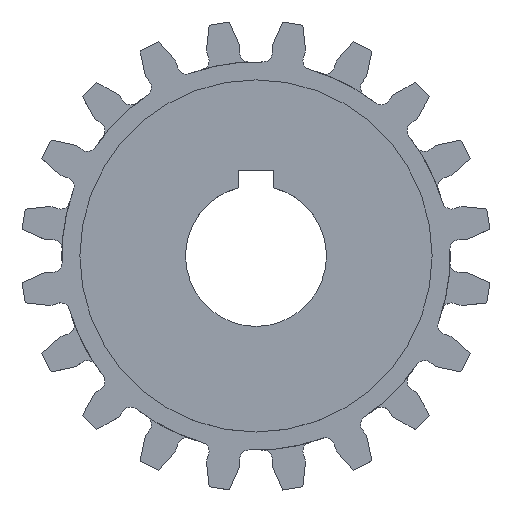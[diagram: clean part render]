
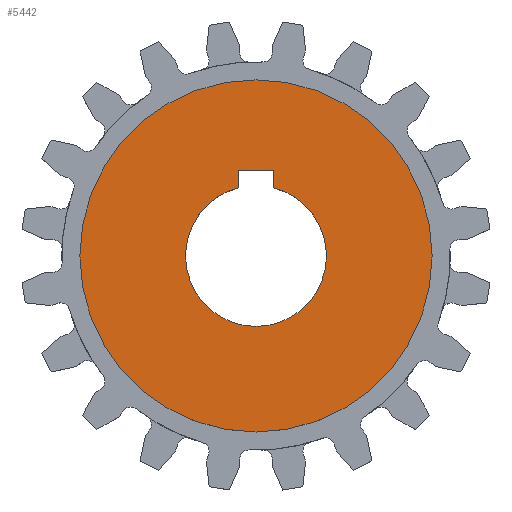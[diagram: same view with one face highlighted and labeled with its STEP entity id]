
A CAD part, top view. The second image highlights one B-rep face of the part: STEP entity #5442.
In plain terms, the highlighted planar face has unit normal (0, 0, 1).
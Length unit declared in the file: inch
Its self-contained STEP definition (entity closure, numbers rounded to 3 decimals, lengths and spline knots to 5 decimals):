
#1949=CARTESIAN_POINT('',(0.,0.,0.41));
#1950=DIRECTION('',(0.,0.,1.));
#1951=DIRECTION('',(1.,0.,0.));
#1952=AXIS2_PLACEMENT_3D('',#1949,#1950,#1951);
#1954=CARTESIAN_POINT('',(0.,0.,0.41));
#1955=DIRECTION('',(0.,0.,1.));
#1956=DIRECTION('',(-1.,0.,0.));
#1957=AXIS2_PLACEMENT_3D('',#1954,#1955,#1956);
#1959=DIRECTION('',(0.,-1.,0.));
#1960=VECTOR('',#1959,0.25);
#1961=CARTESIAN_POINT('',(-0.25,1.21825,0.41));
#1962=LINE('',#1961,#1960);
#1963=CARTESIAN_POINT('',(0.,0.,0.41));
#1964=DIRECTION('',(0.,0.,1.));
#1965=DIRECTION('',(-0.25,0.968,0.));
#1966=AXIS2_PLACEMENT_3D('',#1963,#1964,#1965);
#1968=DIRECTION('',(0.,1.,0.));
#1969=VECTOR('',#1968,0.25);
#1970=CARTESIAN_POINT('',(0.25,0.96825,0.41));
#1971=LINE('',#1970,#1969);
#1972=DIRECTION('',(-1.,0.,0.));
#1973=VECTOR('',#1972,0.5);
#1974=CARTESIAN_POINT('',(0.25,1.21825,0.41));
#1975=LINE('',#1974,#1973);
#2595=CARTESIAN_POINT('',(2.5,0.,0.41));
#2596=CARTESIAN_POINT('',(-2.5,0.,0.41));
#2597=VERTEX_POINT('',#2595);
#2598=VERTEX_POINT('',#2596);
#2847=CARTESIAN_POINT('',(-0.25,1.21825,0.41));
#2848=CARTESIAN_POINT('',(-0.25,0.96825,0.41));
#2849=VERTEX_POINT('',#2847);
#2850=VERTEX_POINT('',#2848);
#2851=CARTESIAN_POINT('',(0.25,0.96825,0.41));
#2852=VERTEX_POINT('',#2851);
#2853=CARTESIAN_POINT('',(0.25,1.21825,0.41));
#2854=VERTEX_POINT('',#2853);
#5423=CARTESIAN_POINT('',(0.,0.,0.41));
#5424=DIRECTION('',(0.,0.,1.));
#5425=DIRECTION('',(1.,0.,0.));
#5426=AXIS2_PLACEMENT_3D('',#5423,#5424,#5425);
#5427=PLANE('',#5426);
#5428=ORIENTED_EDGE('',*,*,#5375,.F.);
#5429=ORIENTED_EDGE('',*,*,#5404,.F.);
#5430=EDGE_LOOP('',(#5428,#5429));
#5431=FACE_OUTER_BOUND('',#5430,.F.);
#5433=ORIENTED_EDGE('',*,*,#5432,.T.);
#5435=ORIENTED_EDGE('',*,*,#5434,.T.);
#5437=ORIENTED_EDGE('',*,*,#5436,.T.);
#5439=ORIENTED_EDGE('',*,*,#5438,.T.);
#5440=EDGE_LOOP('',(#5433,#5435,#5437,#5439));
#5441=FACE_BOUND('',#5440,.F.);
#5442=ADVANCED_FACE('',(#5431,#5441),#5427,.T.);
#1953=CIRCLE('',#1952,2.5);
#1958=CIRCLE('',#1957,2.5);
#1967=CIRCLE('',#1966,1.);
#5375=EDGE_CURVE('',#2597,#2598,#1953,.T.);
#5404=EDGE_CURVE('',#2598,#2597,#1958,.T.);
#5432=EDGE_CURVE('',#2849,#2850,#1962,.T.);
#5434=EDGE_CURVE('',#2850,#2852,#1967,.T.);
#5436=EDGE_CURVE('',#2852,#2854,#1971,.T.);
#5438=EDGE_CURVE('',#2854,#2849,#1975,.T.);
